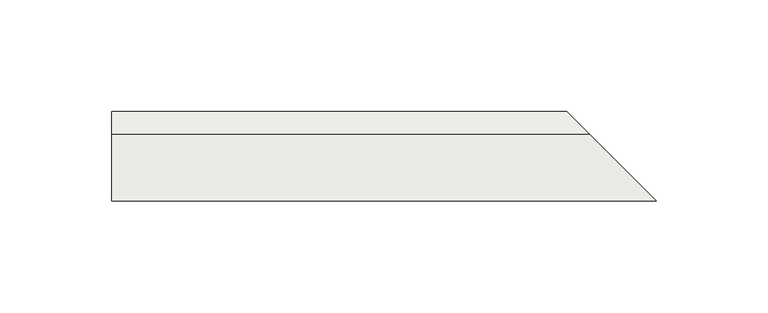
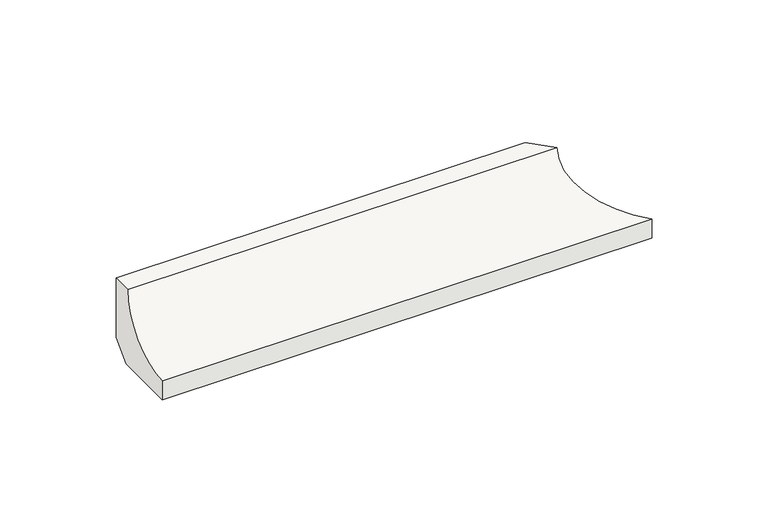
"""IFC4 building model written with IfcOpenShell, lengths in millimetres: slab geometry, ROSA GRES_112 (corte) : Pieza 112_Aqua_Marino_Liso."""

import ifcopenshell
import ifcopenshell.guid

model = None  # the IFC model being written
_history = None  # IfcOwnerHistory: only IFC2X3 demands one
_inside = {}  # id of a spatial element -> (the spatial element, [elements in it])
_under = {}  # id of a project, library or spatial element -> (it, [spatial elements below it])
_declared = {}  # id of a project -> (the project, [libraries it declares])
_typed = {}  # id of a type object -> (the type object, [elements of that type])
_made_of = {}  # id of a material, layer set ... -> (it, [elements and type objects made of it])


def new_model(schema):
    """Start an empty IFC model of exactly this schema.

    Asked for "IFC4X3", IfcOpenShell would pick the latest addendum, in which some entities
    have other attributes; the version numbers below select the first issue.
    IFC2X3 requires an IfcOwnerHistory on every rooted entity: one is made here for all.
    """
    global model, _history
    if schema == "IFC4X3":
        model = ifcopenshell.file(schema_version=(4, 3, 0, 0))
    else:
        model = ifcopenshell.file(schema=schema)
    _inside.clear()
    _under.clear()
    _declared.clear()
    _typed.clear()
    _made_of.clear()
    _history = None
    if model.schema == "IFC2X3":
        org = make("IfcOrganization", Name="unknown")
        user = make(
            "IfcPersonAndOrganization",
            ThePerson=make("IfcPerson", FamilyName="unknown"),
            TheOrganization=org,
        )
        app = make(
            "IfcApplication",
            ApplicationDeveloper=org,
            Version="unknown",
            ApplicationFullName="unknown",
            ApplicationIdentifier="unknown",
        )
        _history = make(
            "IfcOwnerHistory",
            OwningUser=user,
            OwningApplication=app,
            ChangeAction="ADDED",
            CreationDate=0,
        )
    return model


def make(cls, **values):
    """One entity of the class cls with the attributes given. An attribute that is None is left unset."""
    return model.create_entity(
        cls, **{name: value for name, value in values.items() if value is not None}
    )


def rooted(cls, **values):
    """An entity with a GlobalId (a new one), such as an element, a storey or a relation."""
    return make(cls, GlobalId=ifcopenshell.guid.new(), OwnerHistory=_history, **values)


def si_unit(unit_type, name, prefix=None):
    """IfcSIUnit, for example si_unit("LENGTHUNIT", "METRE", prefix="MILLI")."""
    return make("IfcSIUnit", UnitType=unit_type, Prefix=prefix, Name=name)


def assignment(units):
    """IfcUnitAssignment: the units of a project."""
    return None if units is None else make("IfcUnitAssignment", Units=units)


def point(xyz):
    """IfcCartesianPoint."""
    return None if xyz is None else make("IfcCartesianPoint", Coordinates=xyz)


def direction(xyz):
    """IfcDirection."""
    return None if xyz is None else make("IfcDirection", DirectionRatios=xyz)


def frame(location, z_axis=None, x_axis=None):
    """IfcAxis2Placement3D, a coordinate frame: its origin and axes. An axis left out is left unset."""
    return make(
        "IfcAxis2Placement3D",
        Location=point(location),
        Axis=direction(z_axis),
        RefDirection=direction(x_axis),
    )


def origin():
    """The frame at (0, 0, 0) with its axes left unset."""
    return frame((0.0, 0.0, 0.0))


def place(relative_to, where):
    """IfcLocalPlacement: puts the frame where relative to a parent placement (None: the world)."""
    return make(
        "IfcLocalPlacement", PlacementRelTo=relative_to, RelativePlacement=where
    )


def context(
    kind, dimensions, precision=None, world=None, true_north=None, identifier=None
):
    """IfcGeometricRepresentationContext, for example the 3D "Model" context."""
    return make(
        "IfcGeometricRepresentationContext",
        ContextIdentifier=identifier,
        ContextType=kind,
        CoordinateSpaceDimension=dimensions,
        Precision=precision,
        WorldCoordinateSystem=world,
        TrueNorth=true_north,
    )


def project(units=None, contexts=None):
    """IfcProject with its units and contexts."""
    return rooted(
        "IfcProject",
        Name="project",
        RepresentationContexts=contexts,
        UnitsInContext=assignment(units),
    )


def spatial(cls, under=None, at=None, **own):
    """A site, building, storey or space (cls), placed at a placement, below another one or the project."""
    s = rooted(cls, ObjectPlacement=at, **own)
    if under is not None:
        _under.setdefault(under.id(), (under, []))[1].append(s)
    return s


def polyline(points):
    """IfcPolyline through the points."""
    return make("IfcPolyline", Points=[point(p) for p in points])


def circle_curve(where, radius):
    """IfcCircle in the frame where."""
    return make("IfcCircle", Position=where, Radius=radius)


def ellipse_curve(where, semi_axis1, semi_axis2):
    """IfcEllipse in the frame where."""
    return make(
        "IfcEllipse", Position=where, SemiAxis1=semi_axis1, SemiAxis2=semi_axis2
    )


def shape(context_of_items, identifier, shape_type, items):
    """IfcShapeRepresentation: the items that make up one representation, for example the "Body"."""
    return make(
        "IfcShapeRepresentation",
        ContextOfItems=context_of_items,
        RepresentationIdentifier=identifier,
        RepresentationType=shape_type,
        Items=items,
    )


def source(mapping_origin, context_of_items, identifier, shape_type, items):
    """IfcRepresentationMap: a shape defined once, which mapped items show again and again."""
    return make(
        "IfcRepresentationMap",
        MappingOrigin=mapping_origin,
        MappedRepresentation=shape(context_of_items, identifier, shape_type, items),
    )


def transform(
    local_origin,
    x_axis=None,
    y_axis=None,
    z_axis=None,
    scale=None,
    scale2=None,
    scale3=None,
    uniform=True,
):
    """IfcCartesianTransformationOperator3D, or its non-uniform kind. x_axis, y_axis, z_axis: its Axis1, 2, 3."""
    if uniform:
        return make(
            "IfcCartesianTransformationOperator3D",
            Axis1=direction(x_axis),
            Axis2=direction(y_axis),
            LocalOrigin=point(local_origin),
            Scale=scale,
            Axis3=direction(z_axis),
        )
    return make(
        "IfcCartesianTransformationOperator3DnonUniform",
        Axis1=direction(x_axis),
        Axis2=direction(y_axis),
        LocalOrigin=point(local_origin),
        Scale=scale,
        Axis3=direction(z_axis),
        Scale2=scale2,
        Scale3=scale3,
    )


def mapped(mapping_source, mapping_target):
    """IfcMappedItem: shows the shape of a source again, moved by a transform."""
    return make(
        "IfcMappedItem", MappingSource=mapping_source, MappingTarget=mapping_target
    )


def made_of(thing, what):
    """Note that an element or type object is made of a material, layer set ...; save() writes the relation."""
    if what is not None:
        _made_of.setdefault(what.id(), (what, []))[1].append(thing)
    return thing


def element(
    cls,
    number,
    at=None,
    inside=None,
    cuts=None,
    type_object=None,
    material=None,
    context=None,
    identifier="Body",
    shape_type=None,
    held_by="IfcProductDefinitionShape",
    body=None,
    shapes=None,
    **own,
):
    """One element of the class cls, such as IfcWall. Its Tag is "e" and its number.

    at: its placement. inside: the storey or other place that contains it. cuts: it is an
    opening in that element (IfcRelVoidsElement). A single representation is given by context,
    identifier, shape_type and body (its items); several are given by shapes. held_by: the class
    of the entity that holds the representations. save() writes the other relations.
    """
    e = rooted(cls, Tag="e%d" % number, ObjectPlacement=at, **own)
    if body is not None:
        shapes = [shape(context, identifier, shape_type, body)]
    if shapes is not None:
        e.Representation = make(held_by, Representations=shapes)
    if inside is not None:
        _inside.setdefault(inside.id(), (inside, []))[1].append(e)
    if cuts is not None:
        rooted(
            "IfcRelVoidsElement", RelatingBuildingElement=cuts, RelatedOpeningElement=e
        )
    if type_object is not None:
        _typed.setdefault(type_object.id(), (type_object, []))[1].append(e)
    return made_of(e, material)


def aggregate(whole, parts):
    """IfcRelAggregates: a whole, such as a stair, and the parts it consists of."""
    return rooted("IfcRelAggregates", RelatingObject=whole, RelatedObjects=parts)


def save(model, path):
    """Write the relations noted so far, then the file.

    IfcRelAggregates (storeys below a building ...), IfcRelContainedInSpatialStructure (elements
    in a storey), IfcRelDefinesByType, IfcRelAssociatesMaterial and IfcRelDeclares: one each for
    every whole, place, type object, material and project.
    """
    for whole, parts in _under.values():
        aggregate(whole, parts)
    for where, things in _inside.values():
        rooted(
            "IfcRelContainedInSpatialStructure",
            RelatedElements=things,
            RelatingStructure=where,
        )
    for kind, things in _typed.values():
        rooted("IfcRelDefinesByType", RelatedObjects=things, RelatingType=kind)
    for what, things in _made_of.values():
        rooted("IfcRelAssociatesMaterial", RelatedObjects=things, RelatingMaterial=what)
    for by, libraries in _declared.values():
        rooted("IfcRelDeclares", RelatingContext=by, RelatedDefinitions=libraries)
    model.write(path)


def plane_surface(at):
    """IfcPlane: the flat surface through the origin of the frame at, square to its z axis."""
    return make("IfcPlane", Position=at)


def revolved_surface(curve, axis_point, axis_direction):
    """IfcSurfaceOfRevolution: the curve turned about the line through axis_point along axis_direction."""
    return make(
        "IfcSurfaceOfRevolution",
        SweptCurve=make("IfcArbitraryOpenProfileDef", ProfileType="CURVE", Curve=curve),
        AxisPosition=make("IfcAxis1Placement", Location=point(axis_point), Axis=direction(axis_direction)),
    )


def advanced_brep(points, edges, surfaces, faces):
    """IfcAdvancedBrep: a solid bounded by faces that lie on surfaces and meet in shared edges.

    An edge is (start, end): straight between two places in points (the first is 0);
    or (start, end, curve); or (start, end, curve, False) where it runs against its curve.
    A face is (place in surfaces, loops), or (place, loops, False) where it looks against
    its surface's normal. A loop lists edges by number (the first is 1), with a minus sign
    where the edge is run from its end to its start. The first loop is the outer one.
    """
    corners = [point(p) for p in points]
    vertices = [make("IfcVertexPoint", VertexGeometry=c) for c in corners]
    made = []
    for start, end, *more in edges:
        made.append(
            make(
                "IfcEdgeCurve",
                EdgeStart=vertices[start],
                EdgeEnd=vertices[end],
                EdgeGeometry=more[0] if more else make("IfcPolyline", Points=[corners[start], corners[end]]),
                SameSense=more[1] if len(more) > 1 else True,
            )
        )
    hull = []
    for where, loops, *sense in faces:
        bounds = []
        for j, loop in enumerate(loops):
            ring = [make("IfcOrientedEdge", EdgeElement=made[abs(k) - 1], Orientation=k > 0) for k in loop]
            bounds.append(
                make(
                    "IfcFaceOuterBound" if j == 0 else "IfcFaceBound",
                    Bound=make("IfcEdgeLoop", EdgeList=ring),
                    Orientation=True,
                )
            )
        hull.append(make("IfcAdvancedFace", Bounds=bounds, FaceSurface=surfaces[where], SameSense=sense[0] if sense else True))
    return make("IfcAdvancedBrep", Outer=make("IfcClosedShell", CfsFaces=hull))


def slab_18940970(model_context):
    return source(origin(), model_context, "Body", "AdvancedBrep", [
        advanced_brep(
        [(0.0, 0.0, 8.7114978), (0.0, -8.7114978, 0.0), (0.0, -40.0, 0.0), (0.0, -40.0, 9.9734114), (0.0, -9.9734114, 40.0), (0.0, 0.0, 40.0), (203.5, 0.0, 40.0), (203.5, 0.0, 8.7114978), (213.4734114, -9.9734114, 40.0), (243.5, -40.0, 9.9734114), (243.5, -40.0, 0.0), (212.2114978, -8.7114978, 0.0)],
        [
            (0, 1),
            (1, 2),
            (2, 3),
            (3, 4, circle_curve(frame((0.0, -39.9955547, 39.9955547), z_axis=(1.0, 0.0, 0.0), x_axis=(0.0, -1.0, 0.0)), 30.0221435)),
            (4, 5),
            (5, 0),
            (5, 6),
            (6, 7),
            (7, 0),
            (4, 8),
            (8, 6),
            (3, 9),
            (9, 8, ellipse_curve(frame((243.4955547, -39.9955547, 39.9955547), z_axis=(0.7071067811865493, 0.7071067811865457, 0.0), x_axis=(0.7071067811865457, -0.7071067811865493, 0.0)), 42.4577226, 30.0221435)),
            (2, 10),
            (10, 9),
            (1, 11),
            (11, 10),
            (7, 11),
        ],
        [
            plane_surface(frame((0.0, 0.0, 0.0), z_axis=(-1.0, 0.0, 0.0), x_axis=(0.0, 0.0, 1.0))),
            plane_surface(frame((0.0, 0.0, 8.7114978), z_axis=(0.0, 1.0, 0.0), x_axis=(1.0, 0.0, 0.0))),
            plane_surface(frame((0.0, 0.0, 40.0), z_axis=(0.0, 0.0, 1.0), x_axis=(1.0, 0.0, 0.0))),
            revolved_surface(polyline([(273.5176982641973, -70.0176982, 39.9955547), (0.0, -70.0176982, 39.9955547)]), (0.0, -39.9955547, 39.9955547), (1.0, 0.0, 0.0)),
            plane_surface(frame((0.0, -40.0, 9.9734114), z_axis=(0.0, -1.0, 0.0), x_axis=(1.0, 0.0, 0.0))),
            plane_surface(frame((0.0, -40.0, 0.0), z_axis=(0.0, 0.0, -1.0), x_axis=(1.0, 0.0, 0.0))),
            plane_surface(frame((0.0, -8.7114978, 0.0), z_axis=(0.0, 0.707106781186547, -0.7071067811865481), x_axis=(1.0, 0.0, 0.0))),
            plane_surface(frame((244.0, -40.5, 104.9871832), z_axis=(0.7071067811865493, 0.7071067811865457, 0.0), x_axis=(0.0, 0.0, -1.0))),
        ],
        [
            (0, [[1, 2, 3, 4, 5, 6]]),
            (1, [[7, 8, 9, -6]]),
            (2, [[10, 11, -7, -5]]),
            (3, [[12, 13, -10, -4]]),
            (4, [[14, 15, -12, -3]]),
            (5, [[16, 17, -14, -2]]),
            (6, [[-9, 18, -16, -1]]),
            (7, [[-11, -13, -15, -17, -18, -8]]),
        ],
    ),
    ])


if __name__ == "__main__":
    model = new_model("IFC4")
    model_context = context("Model", 3, world=origin())
    ifc_project = project(units=[si_unit("LENGTHUNIT", "METRE", prefix="MILLI")], contexts=[model_context])
    site = spatial("IfcSite", under=ifc_project)
    building = spatial("IfcBuilding", under=site)
    placement = place(None, origin())
    slab_shape = slab_18940970(model_context)
    element("IfcSlab", 1, ObjectType="ROSA GRES_112 (corte) : Pieza 112_Aqua_Marino_Liso", at=placement, inside=building, context=model_context, shape_type="MappedRepresentation", body=[
        mapped(slab_shape, transform((0.0, 0.0, 0.0), x_axis=(1.0, 0.0, 0.0), y_axis=(0.0, 1.0, 0.0), z_axis=(0.0, 0.0, 1.0))),
    ])
    save(model, "model.ifc")
